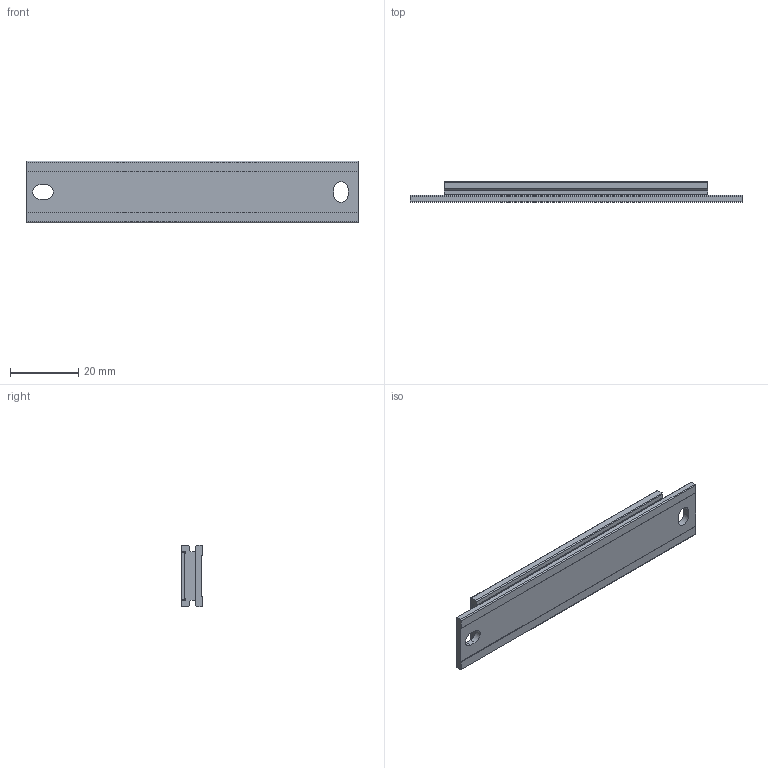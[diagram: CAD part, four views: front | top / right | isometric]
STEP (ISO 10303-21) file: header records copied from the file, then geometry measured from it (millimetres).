
FILE_DESCRIPTION (( 'STEP AP214' ), '1' );
FILE_NAME ('SAScale_exposed.ScaleLneght97.STEP', '2026-03-10T08:35:52', ( '' ), ( '' ), 'SwSTEP 2.0', 'SolidWorks 2024', '' );
FILE_SCHEMA (( 'AUTOMOTIVE_DESIGN' ));
Length unit declared in the file: millimetre
Products named in the file (1): SAScale_exposed.ScaleLneght97
Bounding box: 97 x 6 x 18 mm (x, y, z)
Volume: 8318 mm3; surface area: 7619.2 mm2
Topology: 2 solids, 2 shells, 52 faces, 141 edges, 94 vertices
Faces by surface type: plane 37, cylinder 15
Entity records: 2247 total; most frequent: CARTESIAN_POINT 288, ORIENTED_EDGE 282, DIRECTION 277, EDGE_CURVE 141, LINE 111, VECTOR 111, VERTEX_POINT 94, AXIS2_PLACEMENT_3D 83
